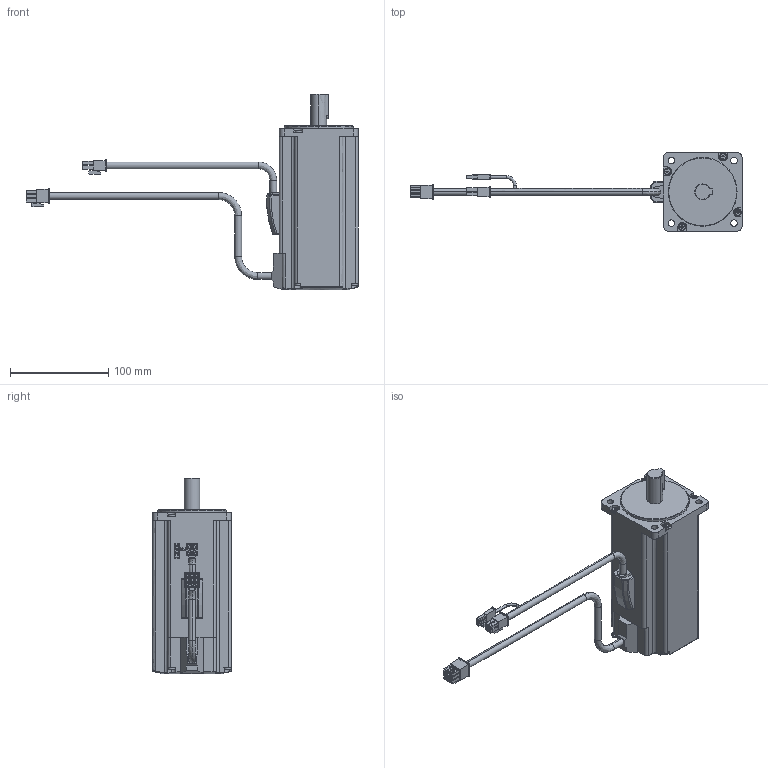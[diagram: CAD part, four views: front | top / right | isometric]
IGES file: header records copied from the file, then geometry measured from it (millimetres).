
Start section:  PTC IGES file: RSMZ-06BA3xT.igs
Global section: file name: RSMZ-06BA3xT.igs; native system: Pro/ENGINEER by Parametric Technology Corporation; preprocessor: 2004440; author: Administrator; organization: Unknown; date: 070904.190434; units: millimetre
Bounding box: 337.7 x 80 x 199 mm (x, y, z)
Volume: 946202 mm3; surface area: 84635 mm2
Topology: 1 solids, 1 shells, 501 faces, 1267 edges, 822 vertices
Faces by surface type: bspline 361, revolution 140
